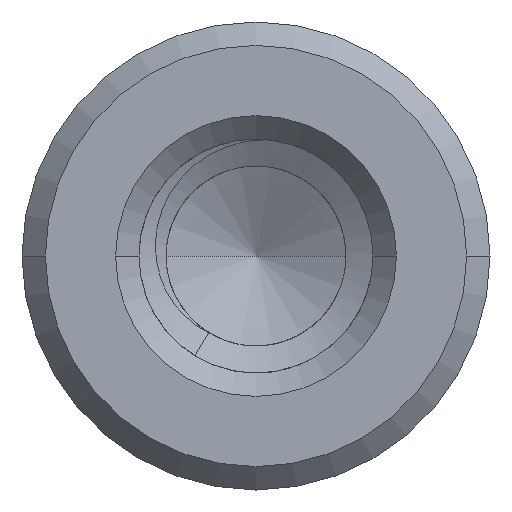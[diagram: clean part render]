
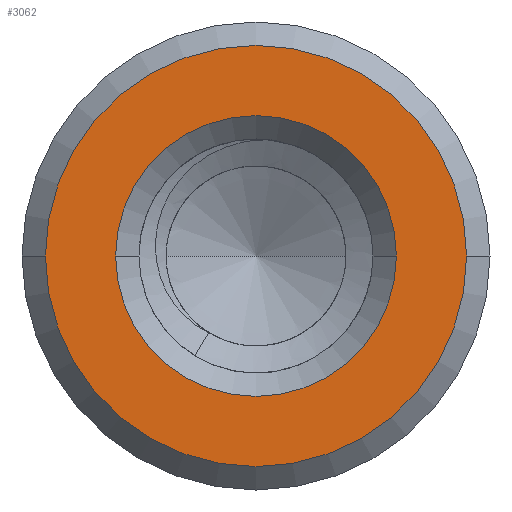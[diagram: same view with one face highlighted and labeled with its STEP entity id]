
A CAD part, front view. The second image highlights one B-rep face of the part: STEP entity #3062.
In plain terms, the highlighted planar face has unit normal (0, -1, 0).
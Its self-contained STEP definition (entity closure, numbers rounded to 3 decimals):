
#1=CARTESIAN_POINT('',(0.,-38.,0.));
#2=DIRECTION('',(0.,1.,0.));
#3=DIRECTION('',(-1.,0.,0.));
#4=AXIS2_PLACEMENT_3D('',#1,#2,#3);
#6=CARTESIAN_POINT('',(0.,-38.,0.));
#7=DIRECTION('',(0.,1.,0.));
#8=DIRECTION('',(1.,0.,0.));
#9=AXIS2_PLACEMENT_3D('',#6,#7,#8);
#11=CARTESIAN_POINT('',(0.,-38.,0.));
#12=DIRECTION('',(0.,-1.,0.));
#13=DIRECTION('',(1.,0.,0.));
#14=AXIS2_PLACEMENT_3D('',#11,#12,#13);
#16=CARTESIAN_POINT('',(0.,-38.,0.));
#17=DIRECTION('',(0.,-1.,0.));
#18=DIRECTION('',(-1.,0.,0.));
#19=AXIS2_PLACEMENT_3D('',#16,#17,#18);
#3021=CARTESIAN_POINT('',(-1.8,-38.,0.));
#3022=CARTESIAN_POINT('',(1.8,-38.,0.));
#3023=VERTEX_POINT('',#3021);
#3024=VERTEX_POINT('',#3022);
#3029=CARTESIAN_POINT('',(2.7,-38.,0.));
#3030=CARTESIAN_POINT('',(-2.7,-38.,0.));
#3031=VERTEX_POINT('',#3029);
#3032=VERTEX_POINT('',#3030);
#3045=CARTESIAN_POINT('',(0.,-38.,0.));
#3046=DIRECTION('',(0.,1.,0.));
#3047=DIRECTION('',(1.,0.,0.));
#3048=AXIS2_PLACEMENT_3D('',#3045,#3046,#3047);
#3049=PLANE('',#3048);
#3051=ORIENTED_EDGE('',*,*,#3050,.F.);
#3053=ORIENTED_EDGE('',*,*,#3052,.F.);
#3054=EDGE_LOOP('',(#3051,#3053));
#3055=FACE_OUTER_BOUND('',#3054,.F.);
#3057=ORIENTED_EDGE('',*,*,#3056,.F.);
#3059=ORIENTED_EDGE('',*,*,#3058,.F.);
#3060=EDGE_LOOP('',(#3057,#3059));
#3061=FACE_BOUND('',#3060,.F.);
#3062=ADVANCED_FACE('',(#3055,#3061),#3049,.F.);
#5=CIRCLE('',#4,1.8);
#10=CIRCLE('',#9,1.8);
#15=CIRCLE('',#14,2.7);
#20=CIRCLE('',#19,2.7);
#3050=EDGE_CURVE('',#3031,#3032,#15,.T.);
#3052=EDGE_CURVE('',#3032,#3031,#20,.T.);
#3056=EDGE_CURVE('',#3023,#3024,#5,.T.);
#3058=EDGE_CURVE('',#3024,#3023,#10,.T.);
